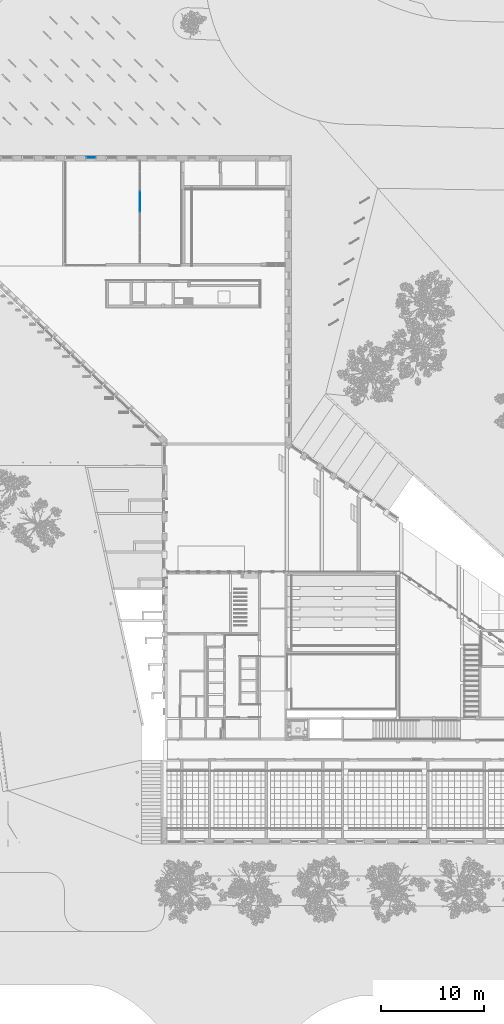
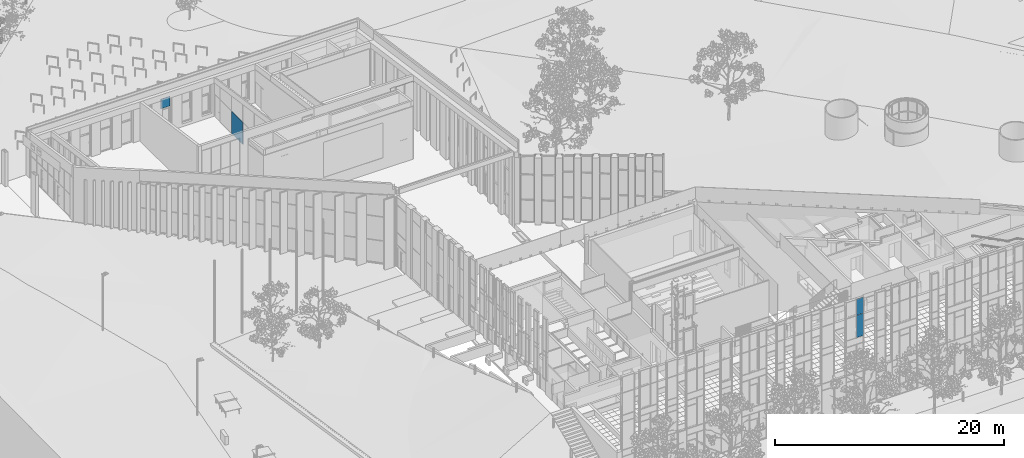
# One storey, part 52 of 246: 4 plates, 3 elements without a shape of their own.
"""IFC2X3 building model written with IfcOpenShell, lengths in millimetres."""

import ifcopenshell
import ifcopenshell.guid

model = None  # the IFC model being written
_history = None  # IfcOwnerHistory: only IFC2X3 demands one
_inside = {}  # id of a spatial element -> (the spatial element, [elements in it])
_under = {}  # id of a project, library or spatial element -> (it, [spatial elements below it])
_declared = {}  # id of a project -> (the project, [libraries it declares])
_typed = {}  # id of a type object -> (the type object, [elements of that type])
_made_of = {}  # id of a material, layer set ... -> (it, [elements and type objects made of it])


def new_model(schema):
    """Start an empty IFC model of exactly this schema.

    Asked for "IFC4X3", IfcOpenShell would pick the latest addendum, in which some entities
    have other attributes; the version numbers below select the first issue.
    IFC2X3 requires an IfcOwnerHistory on every rooted entity: one is made here for all.
    """
    global model, _history
    if schema == "IFC4X3":
        model = ifcopenshell.file(schema_version=(4, 3, 0, 0))
    else:
        model = ifcopenshell.file(schema=schema)
    _inside.clear()
    _under.clear()
    _declared.clear()
    _typed.clear()
    _made_of.clear()
    _history = None
    if model.schema == "IFC2X3":
        org = make("IfcOrganization", Name="unknown")
        user = make(
            "IfcPersonAndOrganization",
            ThePerson=make("IfcPerson", FamilyName="unknown"),
            TheOrganization=org,
        )
        app = make(
            "IfcApplication",
            ApplicationDeveloper=org,
            Version="unknown",
            ApplicationFullName="unknown",
            ApplicationIdentifier="unknown",
        )
        _history = make(
            "IfcOwnerHistory",
            OwningUser=user,
            OwningApplication=app,
            ChangeAction="ADDED",
            CreationDate=0,
        )
    return model


def make(cls, **values):
    """One entity of the class cls with the attributes given. An attribute that is None is left unset."""
    return model.create_entity(
        cls, **{name: value for name, value in values.items() if value is not None}
    )


def entity(cls, *values):
    """Any entity or typed value of the class cls, its attributes in the order of the schema. None: left unset."""
    e = model.create_entity(cls)
    for i, value in enumerate(values):
        if value is not None:
            e[i] = value
    return e


def rooted(cls, **values):
    """An entity with a GlobalId (a new one), such as an element, a storey or a relation."""
    return make(cls, GlobalId=ifcopenshell.guid.new(), OwnerHistory=_history, **values)


def si_unit(unit_type, name, prefix=None):
    """IfcSIUnit, for example si_unit("LENGTHUNIT", "METRE", prefix="MILLI")."""
    return make("IfcSIUnit", UnitType=unit_type, Prefix=prefix, Name=name)


def converted_unit(unit_type, name, factor, base, dimensions=None, offset=None):
    """IfcConversionBasedUnit, such as the inch: factor (a typed value) times the base unit."""
    return make(
        "IfcConversionBasedUnit"
        if offset is None
        else "IfcConversionBasedUnitWithOffset",
        ConversionOffset=offset,
        Dimensions=None
        if dimensions is None
        else entity("IfcDimensionalExponents", *dimensions),
        UnitType=unit_type,
        Name=name,
        ConversionFactor=make(
            "IfcMeasureWithUnit", ValueComponent=factor, UnitComponent=base
        ),
    )


def derived_unit(unit_type, elements):
    """IfcDerivedUnit: a product of units, each with its exponent."""
    return make(
        "IfcDerivedUnit",
        Elements=[
            make("IfcDerivedUnitElement", Unit=unit, Exponent=power)
            for unit, power in elements
        ],
        UnitType=unit_type,
    )


def money_unit(currency):
    """IfcMonetaryUnit."""
    return make("IfcMonetaryUnit", Currency=currency)


def assignment(units):
    """IfcUnitAssignment: the units of a project."""
    return None if units is None else make("IfcUnitAssignment", Units=units)


def point(xyz):
    """IfcCartesianPoint."""
    return None if xyz is None else make("IfcCartesianPoint", Coordinates=xyz)


def direction(xyz):
    """IfcDirection."""
    return None if xyz is None else make("IfcDirection", DirectionRatios=xyz)


def frame(location, z_axis=None, x_axis=None):
    """IfcAxis2Placement3D, a coordinate frame: its origin and axes. An axis left out is left unset."""
    return make(
        "IfcAxis2Placement3D",
        Location=point(location),
        Axis=direction(z_axis),
        RefDirection=direction(x_axis),
    )


def origin_with_axes():
    """The frame at (0, 0, 0) with the z axis (0, 0, 1) and the x axis (1, 0, 0) written out."""
    return frame((0.0, 0.0, 0.0), z_axis=(0.0, 0.0, 1.0), x_axis=(1.0, 0.0, 0.0))


def place(relative_to, where):
    """IfcLocalPlacement: puts the frame where relative to a parent placement (None: the world)."""
    return make(
        "IfcLocalPlacement", PlacementRelTo=relative_to, RelativePlacement=where
    )


def context(
    kind, dimensions, precision=None, world=None, true_north=None, identifier=None
):
    """IfcGeometricRepresentationContext, for example the 3D "Model" context."""
    return make(
        "IfcGeometricRepresentationContext",
        ContextIdentifier=identifier,
        ContextType=kind,
        CoordinateSpaceDimension=dimensions,
        Precision=precision,
        WorldCoordinateSystem=world,
        TrueNorth=true_north,
    )


def subcontext(parent, identifier, kind, view, scale=None):
    """IfcGeometricRepresentationSubContext, for example "Body" below "Model"."""
    return make(
        "IfcGeometricRepresentationSubContext",
        ContextIdentifier=identifier,
        ContextType=kind,
        ParentContext=parent,
        TargetScale=scale,
        TargetView=view,
    )


def project(units=None, contexts=None):
    """IfcProject with its units and contexts."""
    return rooted(
        "IfcProject",
        Name="project",
        RepresentationContexts=contexts,
        UnitsInContext=assignment(units),
    )


def spatial(cls, under=None, at=None, **own):
    """A site, building, storey or space (cls), placed at a placement, below another one or the project."""
    s = rooted(cls, ObjectPlacement=at, **own)
    if under is not None:
        _under.setdefault(under.id(), (under, []))[1].append(s)
    return s


def faces_of(points, faces, orient=None, outer=None):
    """IfcFace entities. A face is a list of loops; a loop is a list of indices into points, from 0.

    orient and outer hold one flag for each loop. By default every Orientation is true, the
    first loop of a face is its IfcFaceOuterBound and the others are IfcFaceBound.
    """
    made = []
    for i, loops in enumerate(faces):
        bounds = []
        for j, loop in enumerate(loops):
            is_outer = j == 0 if outer is None else outer[i][j]
            bounds.append(
                make(
                    "IfcFaceOuterBound" if is_outer else "IfcFaceBound",
                    Bound=make("IfcPolyLoop", Polygon=[points[k] for k in loop]),
                    Orientation=True if orient is None else orient[i][j],
                )
            )
        made.append(make("IfcFace", Bounds=bounds))
    return made


def faceted_brep(points, faces, orient=None, outer=None, voids=None):
    """IfcFacetedBrep: a solid bounded by flat faces; with voids (closed shells), ...WithVoids."""
    shared = [point(p) for p in points]
    hull = make("IfcClosedShell", CfsFaces=faces_of(shared, faces, orient, outer))
    if voids is None:
        return make("IfcFacetedBrep", Outer=hull)
    return make(
        "IfcFacetedBrepWithVoids",
        Outer=hull,
        Voids=[
            make(cls, CfsFaces=faces_of(shared, fs, o, b)) for cls, fs, o, b in voids
        ],
    )


def shape(context_of_items, identifier, shape_type, items):
    """IfcShapeRepresentation: the items that make up one representation, for example the "Body"."""
    return make(
        "IfcShapeRepresentation",
        ContextOfItems=context_of_items,
        RepresentationIdentifier=identifier,
        RepresentationType=shape_type,
        Items=items,
    )


def source(mapping_origin, context_of_items, identifier, shape_type, items):
    """IfcRepresentationMap: a shape defined once, which mapped items show again and again."""
    return make(
        "IfcRepresentationMap",
        MappingOrigin=mapping_origin,
        MappedRepresentation=shape(context_of_items, identifier, shape_type, items),
    )


def transform(
    local_origin,
    x_axis=None,
    y_axis=None,
    z_axis=None,
    scale=None,
    scale2=None,
    scale3=None,
    uniform=True,
):
    """IfcCartesianTransformationOperator3D, or its non-uniform kind. x_axis, y_axis, z_axis: its Axis1, 2, 3."""
    if uniform:
        return make(
            "IfcCartesianTransformationOperator3D",
            Axis1=direction(x_axis),
            Axis2=direction(y_axis),
            LocalOrigin=point(local_origin),
            Scale=scale,
            Axis3=direction(z_axis),
        )
    return make(
        "IfcCartesianTransformationOperator3DnonUniform",
        Axis1=direction(x_axis),
        Axis2=direction(y_axis),
        LocalOrigin=point(local_origin),
        Scale=scale,
        Axis3=direction(z_axis),
        Scale2=scale2,
        Scale3=scale3,
    )


def mapped(mapping_source, mapping_target):
    """IfcMappedItem: shows the shape of a source again, moved by a transform."""
    return make(
        "IfcMappedItem", MappingSource=mapping_source, MappingTarget=mapping_target
    )


def material(Name=None, Category=None):
    """IfcMaterial."""
    return make("IfcMaterial", Name=Name, Category=Category)


def made_of(thing, what):
    """Note that an element or type object is made of a material, layer set ...; save() writes the relation."""
    if what is not None:
        _made_of.setdefault(what.id(), (what, []))[1].append(thing)
    return thing


def type_object(cls, material=None, **own):
    """A type object (cls), such as IfcWallType, which elements share."""
    return made_of(rooted(cls, **own), material)


def element(
    cls,
    number,
    at=None,
    inside=None,
    cuts=None,
    type_object=None,
    material=None,
    context=None,
    identifier="Body",
    shape_type=None,
    held_by="IfcProductDefinitionShape",
    body=None,
    shapes=None,
    **own,
):
    """One element of the class cls, such as IfcWall. Its Tag is "e" and its number.

    at: its placement. inside: the storey or other place that contains it. cuts: it is an
    opening in that element (IfcRelVoidsElement). A single representation is given by context,
    identifier, shape_type and body (its items); several are given by shapes. held_by: the class
    of the entity that holds the representations. save() writes the other relations.
    """
    e = rooted(cls, Tag="e%d" % number, ObjectPlacement=at, **own)
    if body is not None:
        shapes = [shape(context, identifier, shape_type, body)]
    if shapes is not None:
        e.Representation = make(held_by, Representations=shapes)
    if inside is not None:
        _inside.setdefault(inside.id(), (inside, []))[1].append(e)
    if cuts is not None:
        rooted(
            "IfcRelVoidsElement", RelatingBuildingElement=cuts, RelatedOpeningElement=e
        )
    if type_object is not None:
        _typed.setdefault(type_object.id(), (type_object, []))[1].append(e)
    return made_of(e, material)


def aggregate(whole, parts):
    """IfcRelAggregates: a whole, such as a stair, and the parts it consists of."""
    return rooted("IfcRelAggregates", RelatingObject=whole, RelatedObjects=parts)


def save(model, path):
    """Write the relations noted so far, then the file.

    IfcRelAggregates (storeys below a building ...), IfcRelContainedInSpatialStructure (elements
    in a storey), IfcRelDefinesByType, IfcRelAssociatesMaterial and IfcRelDeclares: one each for
    every whole, place, type object, material and project.
    """
    for whole, parts in _under.values():
        aggregate(whole, parts)
    for where, things in _inside.values():
        rooted(
            "IfcRelContainedInSpatialStructure",
            RelatedElements=things,
            RelatingStructure=where,
        )
    for kind, things in _typed.values():
        rooted("IfcRelDefinesByType", RelatedObjects=things, RelatingType=kind)
    for what, things in _made_of.values():
        rooted("IfcRelAssociatesMaterial", RelatedObjects=things, RelatingMaterial=what)
    for by, libraries in _declared.values():
        rooted("IfcRelDeclares", RelatingContext=by, RelatedDefinitions=libraries)
    model.write(path)


model = new_model("IFC2X3")

# Units and contexts
model_context = context("Model", 3, precision=0.01, world=origin_with_axes(), true_north=direction((0.0, 1.0)))
body_context = subcontext(model_context, "Body", "Model", "MODEL_VIEW")
ifc_project = project(units=[si_unit("LENGTHUNIT", "METRE", prefix="MILLI"), si_unit("AREAUNIT", "SQUARE_METRE"), si_unit("VOLUMEUNIT", "CUBIC_METRE"), converted_unit("PLANEANGLEUNIT", "DEGREE", entity("IfcPlaneAngleMeasure", 0.0174532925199), si_unit("PLANEANGLEUNIT", "RADIAN"), dimensions=[0, 0, 0, 0, 0, 0, 0]), si_unit("SOLIDANGLEUNIT", "STERADIAN"), money_unit("EUR"), converted_unit("TIMEUNIT", "Year", entity("IfcTimeMeasure", 31556926.0), si_unit("TIMEUNIT", "SECOND"), dimensions=[0, 0, 1, 0, 0, 0, 0]), si_unit("MASSUNIT", "GRAM", prefix="KILO"), si_unit("THERMODYNAMICTEMPERATUREUNIT", "DEGREE_CELSIUS"), si_unit("LUMINOUSINTENSITYUNIT", "LUMEN"), si_unit("ENERGYUNIT", "JOULE", prefix="MEGA"), derived_unit("THERMALCONDUCTANCEUNIT", [(si_unit("POWERUNIT", "WATT"), 1), (si_unit("LENGTHUNIT", "METRE"), -1), (si_unit("THERMODYNAMICTEMPERATUREUNIT", "KELVIN"), -1)]), derived_unit("SPECIFICHEATCAPACITYUNIT", [(si_unit("ENERGYUNIT", "JOULE"), 1), (si_unit("MASSUNIT", "GRAM", prefix="KILO"), -1), (si_unit("THERMODYNAMICTEMPERATUREUNIT", "KELVIN"), -1)]), derived_unit("MASSDENSITYUNIT", [(si_unit("MASSUNIT", "GRAM", prefix="KILO"), 1), (si_unit("VOLUMEUNIT", "CUBIC_METRE"), -1)])], contexts=[model_context])

# Site, building, storey
site_placement = place(None, origin_with_axes())
site = spatial("IfcSite", under=ifc_project, at=site_placement, Name="L.Koidula tn 11b", CompositionType="ELEMENT")
building_placement = place(site_placement, origin_with_axes())
building = spatial("IfcBuilding", under=site, at=building_placement, Name="Rakvere Riigigümnaasium", CompositionType="ELEMENT")
storey_placement = place(building_placement, origin_with_axes())
storey = spatial("IfcBuildingStorey", under=building, at=storey_placement, Name="1.korrus 0,00", CompositionType="ELEMENT", Elevation=0.0)

# Curtain wall, plates
curtain_wall_type = type_object("IfcCurtainWallType", Name="Curtain Wall Type", PredefinedType="NOTDEFINED")
curtain_wall_1_placement = place(storey_placement, frame((59064.0000846, 5111.45334637, -8.09717250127e-06), z_axis=(0.0, 0.0, 1.0), x_axis=(1.0, 0.0, 0.0)))
curtain_wall_1 = element("IfcCurtainWall", 1, at=curtain_wall_1_placement, inside=storey, type_object=curtain_wall_type, Name="KLF-05-2A")
ifc_material_1 = material(Name="Klaaspakett 3x")
plate_type_1 = type_object("IfcPlateType", Name="Distinct Panel 686 x 1701 x 65", PredefinedType="CURTAIN_PANEL")
shared_shape_1 = source(origin_with_axes(), body_context, "Body", "Brep", [
    faceted_brep([(698.000349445, 1713.0000343, -32.5), (12.0000099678, 1713.0000343, -32.5), (12.0000099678, 1713.0000343, 32.5), (698.000349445, 1713.0000343, 32.5), (698.000271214, 12.0000099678, -32.5), (12.0000099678, 12.0000099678, -32.5), (12.0000099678, 12.0000099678, 32.5), (698.000271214, 12.0000099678, 32.5)], [[[0, 1, 2, 3]], [[0, 4, 5, 1]], [[1, 5, 6, 2]], [[3, 2, 6, 7]], [[4, 0, 3, 7]], [[5, 4, 7, 6]]]),
])
plate_1_placement = place(curtain_wall_1_placement, frame((508.500066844, 0.0, 10715.0000206), z_axis=(0.0, 0.0, 1.0), x_axis=(-1.0, 0.0, 0.0)))
plate_1 = element("IfcPlate", 2, at=plate_1_placement, type_object=plate_type_1, material=ifc_material_1, Name="KLF-05-6A-Klaasid", ObjectType="CURTAIN_PANEL", context=body_context, shape_type="MappedRepresentation", body=[
    mapped(shared_shape_1, transform((367.500154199, 0.0, -875.000020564), x_axis=(-1.0, 0.0, 0.0), y_axis=(0.0, 0.0, 1.0), z_axis=(0.0, 1.0, 0.0))),
])
plate_type_2 = type_object("IfcPlateType", Name="Distinct Panel 686 x 828 x 65", PredefinedType="CURTAIN_PANEL")
shared_shape_2 = source(origin_with_axes(), body_context, "Body", "Brep", [
    faceted_brep([(698.000243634, 2363.00000149, -32.5), (11.9999985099, 2363.00000149, -32.5), (11.9999985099, 2363.00000149, 32.5), (698.000243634, 2363.00000149, 32.5), (698.000279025, 11.9999985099, -32.5), (11.9999985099, 11.9999985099, -32.5), (11.9999985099, 1534.99999814, -32.5), (11.9999985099, 1534.99999814, 32.5), (11.9999985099, 11.9999985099, 32.5), (698.000279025, 11.9999985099, 32.5)], [[[0, 1, 2, 3]], [[0, 4, 5, 6, 1]], [[1, 6, 7, 2]], [[3, 2, 7, 8, 9]], [[4, 0, 3, 9]], [[5, 4, 9, 8]], [[6, 5, 8, 7]]]),
])
plate_2_placement = place(curtain_wall_1_placement, frame((507.666714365, 0.0, 8512.5), z_axis=(0.0, 0.0, 1.0), x_axis=(-1.0, 0.0, 0.0)))
plate_2 = element("IfcPlate", 3, at=plate_2_placement, type_object=plate_type_2, material=ifc_material_1, Name="KLF-05-2A-Klaasid", ObjectType="CURTAIN_PANEL", context=body_context, shape_type="MappedRepresentation", body=[
    mapped(shared_shape_2, transform((366.666801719, 0.0, -1047.5), x_axis=(-1.0, 0.0, 0.0), y_axis=(0.0, 0.0, 1.0), z_axis=(0.0, 1.0, 0.0))),
])
aggregate(curtain_wall_1, [plate_1, plate_2])

# Curtain wall, plate
curtain_wall_2_placement = place(storey_placement, frame((28069.5354311, 71934.4519938, 200.0), z_axis=(0.0, 0.0, 1.0), x_axis=(1.0, 0.0, 0.0)))
curtain_wall_2 = element("IfcCurtainWall", 4, at=curtain_wall_2_placement, inside=storey, type_object=curtain_wall_type, Name="KLF-08-04")
plate_type_3 = type_object("IfcPlateType", Name="Distinct Panel 926 x 1031 x 54", PredefinedType="CURTAIN_PANEL")
shared_shape_3 = source(origin_with_axes(), body_context, "Body", "Brep", [
    faceted_brep([(-963.000051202, 1042.99989501, -27.0), (-963.000051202, 1042.99989501, 27.0), (-36.9999999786, 1042.99989501, 27.0), (-36.9999999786, 1042.99989501, -27.0), (-963.000051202, 11.9999934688, -27.0), (-963.000051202, 11.9999934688, 27.0), (-36.9999999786, 11.9999934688, 27.0), (-36.9999999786, 11.9999934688, -27.0)], [[[0, 1, 2, 3]], [[4, 5, 1, 0]], [[1, 5, 6, 2]], [[3, 2, 6, 7]], [[0, 3, 7, 4]], [[7, 6, 5, 4]]]),
])
plate_3_placement = place(curtain_wall_2_placement, frame((0.0, 0.0, 2740.00002462), z_axis=(0.0, 0.0, 1.0), x_axis=(-1.0, 0.0, 0.0)))
plate_3 = element("IfcPlate", 5, at=plate_3_placement, type_object=plate_type_3, material=ifc_material_1, Name="KLF-08-04-Klaasid", ObjectType="CURTAIN_PANEL", context=body_context, shape_type="MappedRepresentation", body=[
    mapped(shared_shape_3, transform((500.000022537, 0.0, -539.999947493), x_axis=(1.0, 0.0, 0.0), y_axis=(0.0, 0.0, 1.0), z_axis=(0.0, -1.0, 0.0))),
])
aggregate(curtain_wall_2, [plate_3])

curtain_wall_3_placement = place(storey_placement, frame((32835.0202258, 67589.2016838, 0.0), z_axis=(0.0, 0.0, 1.0), x_axis=(1.0, 0.0, 0.0)))
curtain_wall_3 = element("IfcCurtainWall", 6, at=curtain_wall_3_placement, inside=storey, type_object=curtain_wall_type, Name="SKLF-02")
ifc_material_2 = material(Name="VKR-05_Klaas")
plate_type_4 = type_object("IfcPlateType", Name="Siseklaasfassaad - Klaas-Doubleline30 1953 x 2368 x 17", PredefinedType="CURTAIN_PANEL")
shared_shape_4 = source(origin_with_axes(), body_context, "Body", "Brep", [
    faceted_brep([(1970.49996424, 2382.99996424, -37.0), (17.0000357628, 2382.99996424, -37.0), (17.0000357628, 2382.99996424, -25.0), (1970.49996424, 2382.99996424, -25.0), (1970.49996424, 15.0, -37.0), (17.0000357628, 15.0, -37.0), (17.0000357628, 15.0, -25.0), (1970.49996424, 15.0, -25.0)], [[[0, 1, 2, 3]], [[0, 4, 5, 1]], [[1, 5, 6, 2]], [[3, 2, 6, 7]], [[4, 0, 3, 7]], [[5, 4, 7, 6]]]),
    faceted_brep([(1970.49996424, 2382.99996424, 15.0), (17.0000357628, 2382.99996424, 15.0), (17.0000357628, 2382.99996424, 27.0), (1970.49996424, 2382.99996424, 27.0), (1970.49996424, 15.0, 15.0), (17.0000357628, 15.0, 15.0), (17.0000357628, 15.0, 27.0), (1970.49996424, 15.0, 27.0)], [[[0, 1, 2, 3]], [[0, 4, 5, 1]], [[1, 5, 6, 2]], [[3, 2, 6, 7]], [[4, 0, 3, 7]], [[5, 4, 7, 6]]]),
])
plate_4_placement = place(curtain_wall_3_placement, frame((0.0, 0.0, 1200.0), z_axis=(0.0, 0.0, 1.0), x_axis=(0.0, 1.0, 0.0)))
plate_4 = element("IfcPlate", 7, at=plate_4_placement, type_object=plate_type_4, material=ifc_material_2, Name="Panel-Siseklaasf-039", ObjectType="CURTAIN_PANEL", context=body_context, shape_type="MappedRepresentation", body=[
    mapped(shared_shape_4, transform((993.75, 0.0, -1200.0), x_axis=(-1.0, 0.0, 0.0), y_axis=(0.0, 0.0, 1.0), z_axis=(0.0, 1.0, 0.0))),
])
aggregate(curtain_wall_3, [plate_4])

save(model, "model.ifc")
